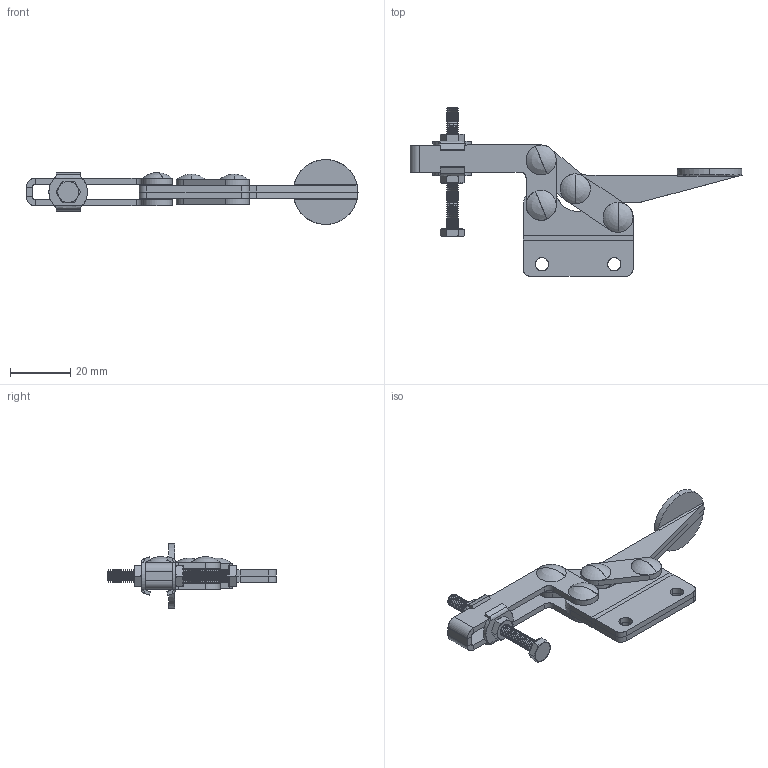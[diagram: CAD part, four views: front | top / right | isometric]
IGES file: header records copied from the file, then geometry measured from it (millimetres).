
Start section: SolidWorks IGES file using analytic representation for surfaces
Global section: file name: \\BARTOP_SV6\share\SOLIDWORKS\工具事業部\坂入用\受け渡し\ISK-03S0.IGS; native system: SolidWorks 2015; preprocessor: SolidWorks 2015; author: SOLID02; date: 150629.104145; units: millimetre
Bounding box: 110.13 x 55.96 x 21.5 mm (x, y, z)
Surface area: 14816.2 mm2 (no closed solid volume)
Topology: 0 solids, 0 shells, 687 faces, 6486 edges, 6474 vertices
Faces by surface type: revolution 524, bspline 163
